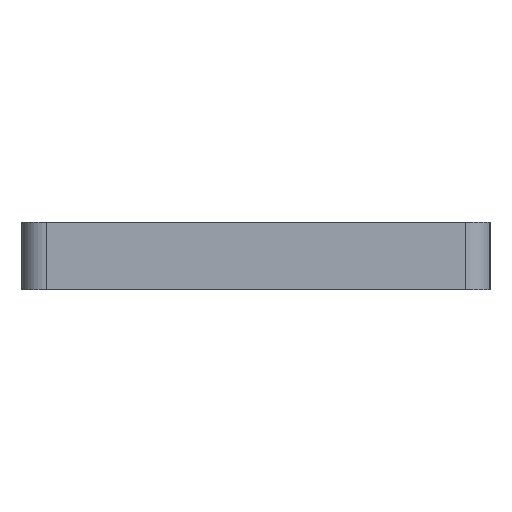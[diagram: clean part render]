
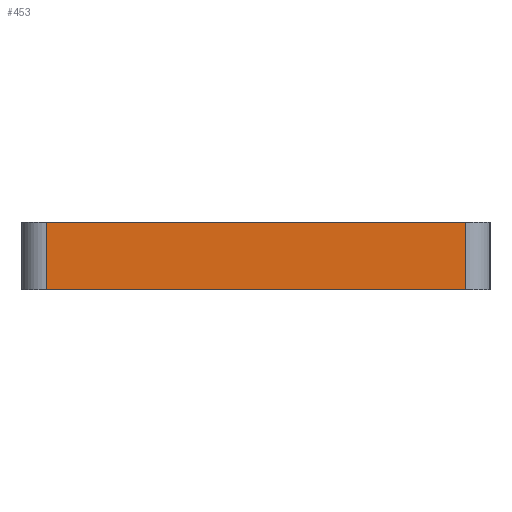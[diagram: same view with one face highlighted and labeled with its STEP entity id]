
A CAD part, left-side view. The second image highlights one B-rep face of the part: STEP entity #453.
In plain terms, the highlighted planar face has unit normal (-1, 0, 0).
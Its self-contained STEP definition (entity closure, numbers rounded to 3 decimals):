
#146 = VERTEX_POINT('',#147);
#147 = CARTESIAN_POINT('',(-138.9,-81.77,0.));
#154 = EDGE_CURVE('',#155,#146,#157,.T.);
#155 = VERTEX_POINT('',#156);
#156 = CARTESIAN_POINT('',(-138.9,-116.27,0.));
#157 = LINE('',#158,#159);
#158 = CARTESIAN_POINT('',(-138.9,-116.27,0.));
#159 = VECTOR('',#160,1.);
#160 = DIRECTION('',(0.,1.,0.));
#286 = VERTEX_POINT('',#287);
#287 = CARTESIAN_POINT('',(-138.9,-81.77,5.53));
#294 = EDGE_CURVE('',#295,#286,#297,.T.);
#295 = VERTEX_POINT('',#296);
#296 = CARTESIAN_POINT('',(-138.9,-116.27,5.53));
#297 = LINE('',#298,#299);
#298 = CARTESIAN_POINT('',(-138.9,-116.27,5.53));
#299 = VECTOR('',#300,1.);
#300 = DIRECTION('',(0.,1.,0.));
#423 = EDGE_CURVE('',#146,#286,#424,.T.);
#424 = LINE('',#425,#426);
#425 = CARTESIAN_POINT('',(-138.9,-81.77,0.));
#426 = VECTOR('',#427,1.);
#427 = DIRECTION('',(0.,0.,1.));
#453 = ADVANCED_FACE('',(#454),#465,.T.);
#454 = FACE_BOUND('',#455,.T.);
#455 = EDGE_LOOP('',(#456,#462,#463,#464));
#456 = ORIENTED_EDGE('',*,*,#457,.T.);
#457 = EDGE_CURVE('',#155,#295,#458,.T.);
#458 = LINE('',#459,#460);
#459 = CARTESIAN_POINT('',(-138.9,-116.27,0.));
#460 = VECTOR('',#461,1.);
#461 = DIRECTION('',(0.,0.,1.));
#462 = ORIENTED_EDGE('',*,*,#294,.T.);
#463 = ORIENTED_EDGE('',*,*,#423,.F.);
#464 = ORIENTED_EDGE('',*,*,#154,.F.);
#465 = PLANE('',#466);
#466 = AXIS2_PLACEMENT_3D('',#467,#468,#469);
#467 = CARTESIAN_POINT('',(-138.9,-116.27,0.));
#468 = DIRECTION('',(-1.,0.,0.));
#469 = DIRECTION('',(0.,1.,0.));
